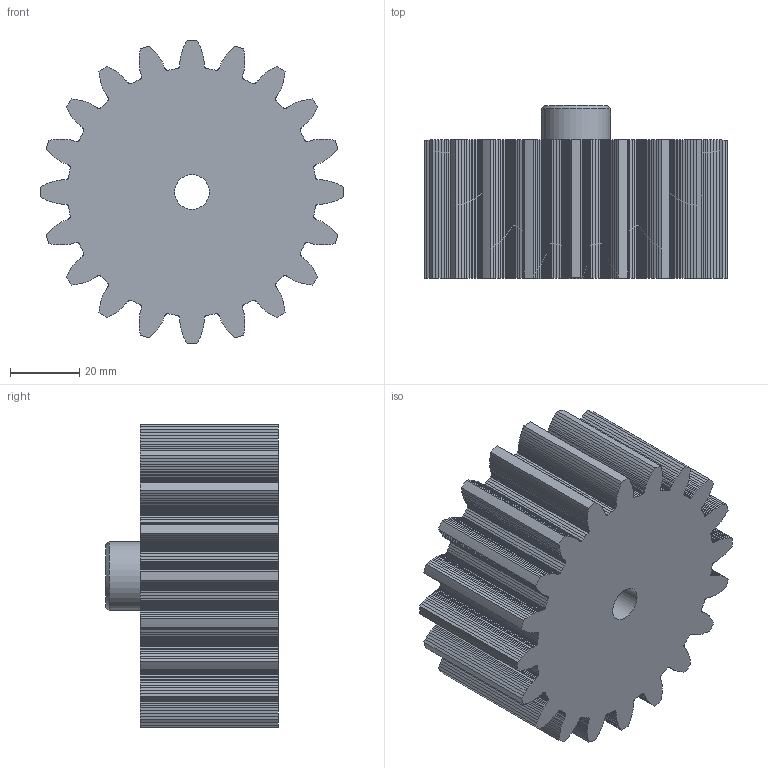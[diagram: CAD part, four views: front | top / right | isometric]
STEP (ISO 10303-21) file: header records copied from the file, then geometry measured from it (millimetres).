
FILE_DESCRIPTION(/* description */ ('www.motedis.com/part/PNM4-20','CAx-IF Rec.Pracs.---Representation and Presentation of Product Manufacturing Information (PMI)---4.0---2014-10-13'),/* implementation_level */ '2;1');
FILE_NAME(/* name */ 'Motedis_PNM4-20.stp',/* time_stamp */ '2026-07-01T13:47:37+02:00',/* author */ ('Motedis'),/* organization */ ('Motedis GmbH'),/* preprocessor_version */ 'ST-DEVELOPER v20.1',/* originating_system */ 'Autodesk Inventor 2026',/* authorisation */ 'Motedis GmbH');
FILE_SCHEMA (('AP242_MANAGED_MODEL_BASED_3D_ENGINEERING_MIM_LF { 1 0 10303 442 2 1 4 }'));
Length unit declared in the file: millimetre
Products named in the file (1): Motedis_PNM4-20
Bounding box: 88 x 50 x 88 mm (x, y, z)
Volume: 199250 mm3; surface area: 30892.1 mm2
Topology: 1 solids, 1 shells, 986 faces, 2949 edges, 1966 vertices
Faces by surface type: plane 963, cylinder 22, cone 1
Full cylindrical faces by diameter (mm): 10 x1, 20 x1
Entity records: 43713 total; most frequent: CARTESIAN_POINT 10875, ORIENTED_EDGE 5898, DIRECTION 5081, STYLED_ITEM 2953, EDGE_CURVE 2949, LINE 2903, VECTOR 2903, VERTEX_POINT 1966
